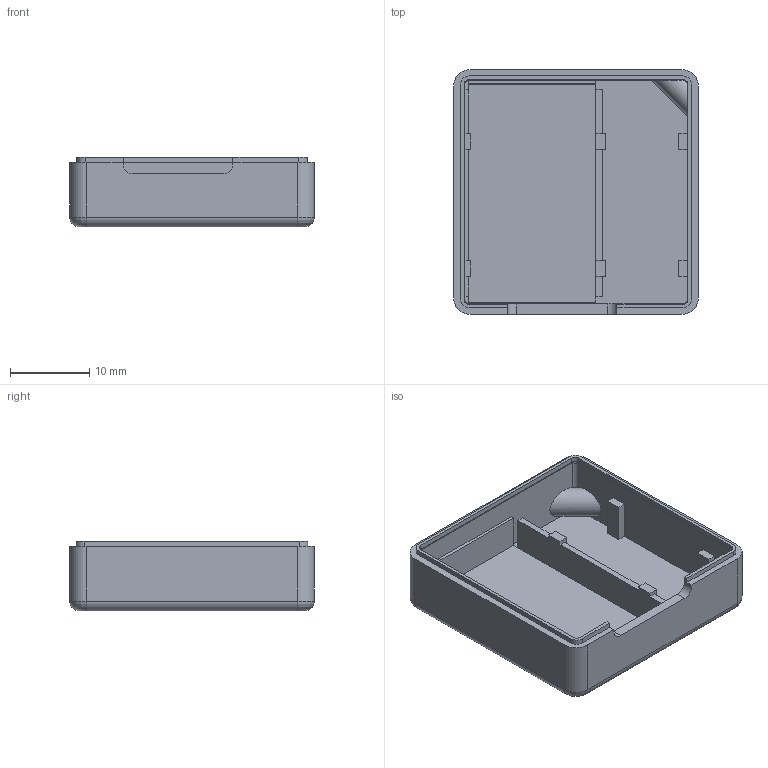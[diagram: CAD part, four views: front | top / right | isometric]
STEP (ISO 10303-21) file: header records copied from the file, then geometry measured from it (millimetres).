
FILE_DESCRIPTION(('Open CASCADE Model'),'2;1');
FILE_NAME('Open CASCADE Shape Model','2026-10-29T14:13:48',('Author'),( 'Open CASCADE'),'Open CASCADE STEP processor 7.9','Open CASCADE 7.9' ,'Unknown');
FILE_SCHEMA(('AUTOMOTIVE_DESIGN { 1 0 10303 214 1 1 1 1 }'));
Length unit declared in the file: millimetre
Products named in the file (1): Open CASCADE STEP translator 7.9 1
Bounding box: 30.8 x 30.8 x 8.75 mm (x, y, z)
Volume: 2245.7 mm3; surface area: 4148.1 mm2
Topology: 1 solids, 1 shells, 112 faces, 320 edges, 210 vertices
Faces by surface type: plane 81, cylinder 27, revolution 4
Full cylindrical faces by diameter (mm): 2 x1
Entity records: 8185 total; most frequent: CARTESIAN_POINT 1804, DIRECTION 1180, LINE 780, VECTOR 780, ORIENTED_EDGE 640, PCURVE 640, DEFINITIONAL_REPRESENTATION 640, EDGE_CURVE 320
